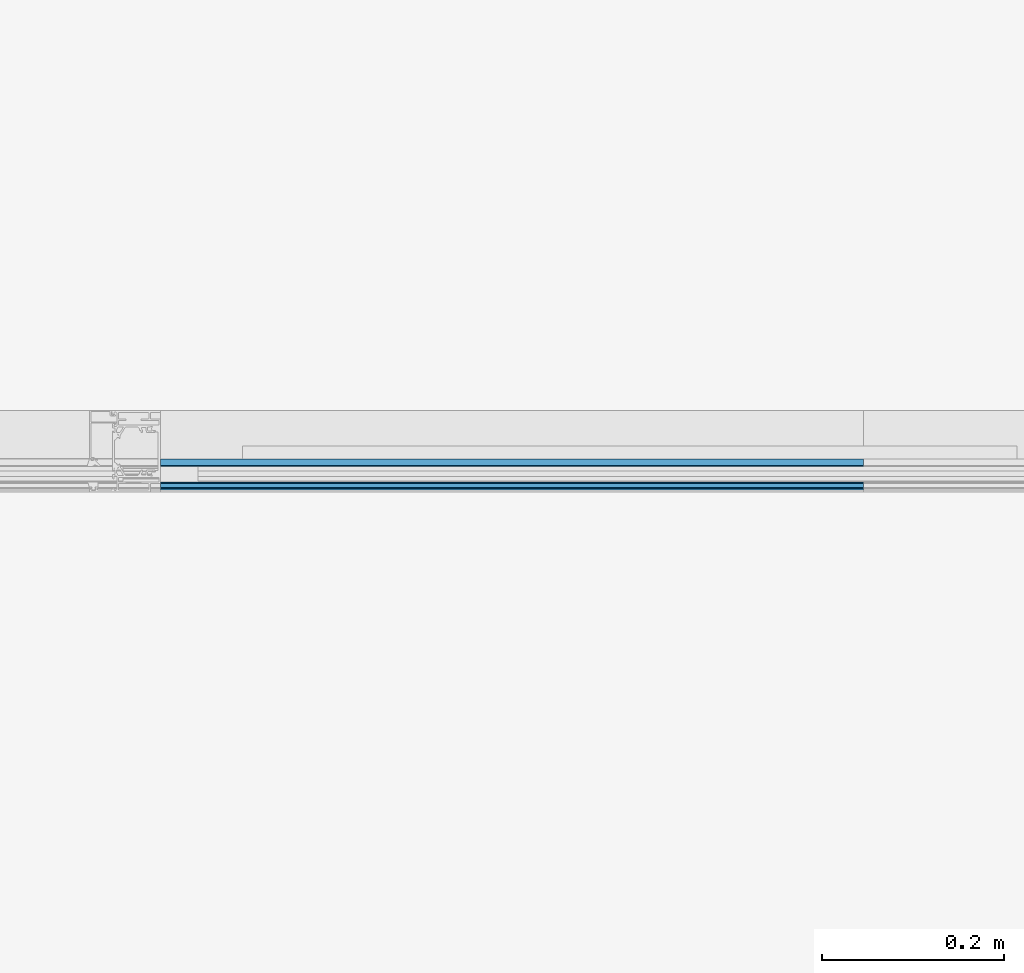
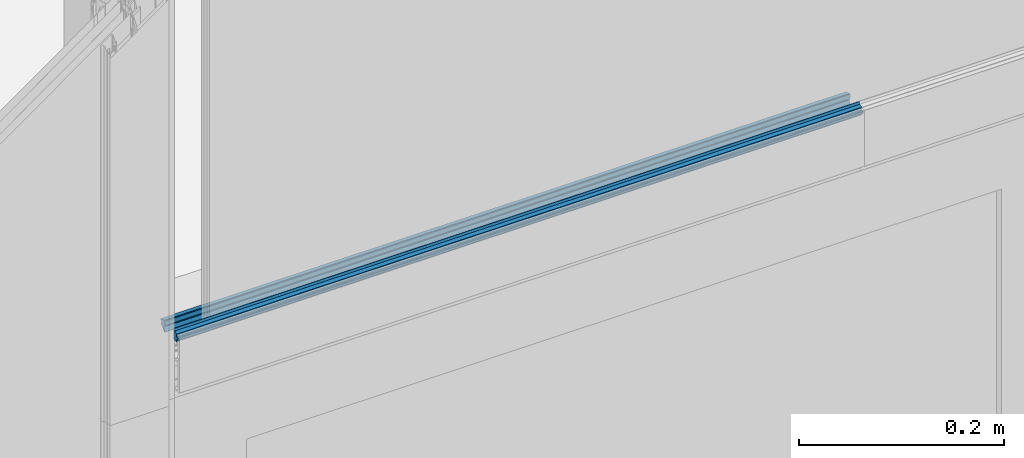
# One storey, part 32 of 69: 1 building element part, 2 elements without a shape of their own.
"""IFC2X3 building model written with IfcOpenShell, lengths in millimetres."""

from ifc_helpers import new_model, entity, si_unit, converted_unit, derived_unit, money_unit, direction, frame, origin_with_axes, place, context, subcontext, project, spatial, faceted_brep, material, type_object, element, aggregate, save


model = new_model("IFC2X3")

# Units and contexts
model_context = context("Model", 3, precision=0.01, world=origin_with_axes(), true_north=direction((0.0, 1.0)))
body_context = subcontext(model_context, "Body", "Model", "MODEL_VIEW")
ifc_project = project(units=[si_unit("LENGTHUNIT", "METRE", prefix="MILLI"), si_unit("AREAUNIT", "SQUARE_METRE"), si_unit("VOLUMEUNIT", "CUBIC_METRE"), converted_unit("PLANEANGLEUNIT", "DEGREE", entity("IfcPlaneAngleMeasure", 0.0174532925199), si_unit("PLANEANGLEUNIT", "RADIAN"), dimensions=[0, 0, 0, 0, 0, 0, 0]), si_unit("SOLIDANGLEUNIT", "STERADIAN"), money_unit("EUR"), converted_unit("TIMEUNIT", "Year", entity("IfcTimeMeasure", 31556926.0), si_unit("TIMEUNIT", "SECOND"), dimensions=[0, 0, 1, 0, 0, 0, 0]), si_unit("MASSUNIT", "GRAM", prefix="KILO"), si_unit("THERMODYNAMICTEMPERATUREUNIT", "DEGREE_CELSIUS"), si_unit("LUMINOUSINTENSITYUNIT", "LUMEN"), si_unit("ENERGYUNIT", "JOULE", prefix="MEGA"), derived_unit("THERMALCONDUCTANCEUNIT", [(si_unit("POWERUNIT", "WATT"), 1), (si_unit("LENGTHUNIT", "METRE"), -1), (si_unit("THERMODYNAMICTEMPERATUREUNIT", "KELVIN"), -1)]), derived_unit("SPECIFICHEATCAPACITYUNIT", [(si_unit("ENERGYUNIT", "JOULE"), 1), (si_unit("MASSUNIT", "GRAM", prefix="KILO"), -1), (si_unit("THERMODYNAMICTEMPERATUREUNIT", "KELVIN"), -1)]), derived_unit("MASSDENSITYUNIT", [(si_unit("MASSUNIT", "GRAM", prefix="KILO"), 1), (si_unit("VOLUMEUNIT", "CUBIC_METRE"), -1)])], contexts=[model_context])

# Site, building, storey
site_placement = place(None, origin_with_axes())
site = spatial("IfcSite", under=ifc_project, at=site_placement, Name="Puškini 31, Narva", CompositionType="ELEMENT")
building_placement = place(site_placement, origin_with_axes())
building = spatial("IfcBuilding", under=site, at=building_placement, Name="Narva Riigigümnaasium", CompositionType="ELEMENT")
storey_placement = place(building_placement, origin_with_axes())
storey = spatial("IfcBuildingStorey", under=building, at=storey_placement, Name="1.korrus 0.00", CompositionType="ELEMENT", Elevation=0.0)

# Curtain wall, member, building element part
curtain_wall_type = type_object("IfcCurtainWallType", Name="Curtain Wall Type", PredefinedType="NOTDEFINED")
curtain_wall_placement = place(storey_placement, frame((18229.9603698, 152620.000001, -0.397158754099), z_axis=(0.0, 0.0, 1.0), x_axis=(1.0, 0.0, 0.0)))
curtain_wall = element("IfcCurtainWall", 1, at=curtain_wall_placement, inside=storey, type_object=curtain_wall_type, Name="G-KLF-01-1")
member_type = type_object("IfcMemberType", Name="82 x 35", PredefinedType="MULLION")
member_placement = place(curtain_wall_placement, frame((-167.593132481, 0.0, 2400.00003439), z_axis=(-1.0, 0.0, 0.0), x_axis=(0.0, 0.0, 1.0)))
member = element("IfcMember", 2, at=member_placement, type_object=member_type, Name="G-SKLF-01-raam", ObjectType="MULLION")
aggregate(curtain_wall, [member])
ifc_material = material(Name="Membraan - Veekindel")
building_element_part_placement = place(member_placement, origin_with_axes())
building_element_part = element("IfcBuildingElementPart", 3, at=building_element_part_placement, material=ifc_material, Name="Membraan - Veekindel", context=body_context, shape_type="Brep", body=[
    faceted_brep([(74.9898926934, -16.6230552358, 0.0), (74.9898926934, -16.6230552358, 773.537000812), (72.7204882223, -15.0100099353, 773.537000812), (72.7204882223, -15.0100099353, 0.0), (77.1927259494, -16.806401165, 0.0), (77.1927259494, -16.806401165, 773.537000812), (79.5038972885, -16.8013439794, 773.537000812), (80.1029794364, -16.6395947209, 773.537000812), (80.5411647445, -16.2002134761, 773.537000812), (80.7012805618, -15.6006926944, 773.537000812), (80.5405112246, -15.001346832, 773.537000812), (78.7418652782, -10.0036443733, 773.537000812), (78.4882789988, -8.54540440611, 773.537000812), (78.4207620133, -8.40475732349, 773.537000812), (78.2917480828, -8.3170330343, 773.537000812), (78.1361285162, -8.30595622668, 773.537000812), (76.7361285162, -8.57808865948, 773.537000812), (76.601588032, -8.64188392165, 773.537000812), (76.5142922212, -8.76250903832, 773.537000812), (76.4957458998, -8.91024871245, 773.537000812), (76.6099827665, -9.81277248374, 773.537000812), (76.5838261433, -9.97813443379, 773.537000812), (76.4731258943, -10.1037298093, 773.537000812), (76.3123574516, -10.1504443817, 773.537000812), (74.2580290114, -10.1504443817, 773.537000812), (74.0859560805, -10.096189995, 773.537000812), (73.9761212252, -9.95305042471, 773.537000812), (73.5556584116, -8.79783833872, 773.537000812), (73.4722984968, -8.67558063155, 773.537000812), (73.3406152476, -8.60808734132, 773.537000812), (73.192689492, -8.61180126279, 773.537000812), (73.0645590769, -8.68581760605, 773.537000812), (66.8142070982, -15.4145273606, 773.537000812), (66.5501763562, -15.7474287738, 773.537000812), (66.5093924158, -16.1703616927, 773.537000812), (66.7049453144, -16.5475813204, 773.537000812), (67.0740702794, -16.7580150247, 773.537000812), (67.4982927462, -16.7341218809, 773.537000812), (71.7536994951, -15.2121692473, 773.537000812), (72.0437237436, -15.0307647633, 773.537000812), (72.2558878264, -14.9074571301, 773.537000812), (72.5011668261, -14.8999349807, 773.537000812), (72.5011668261, -14.8999349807, 0.0), (72.2558878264, -14.9074571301, 0.0), (72.0437237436, -15.0307647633, 0.0), (71.7536994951, -15.2121692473, 0.0), (67.4982927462, -16.7341218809, 0.0), (67.0740702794, -16.7580150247, 0.0), (66.7049453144, -16.5475813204, 0.0), (66.5093924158, -16.1703616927, 0.0), (66.5501763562, -15.7474287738, 0.0), (66.8142070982, -15.4145273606, 0.0), (73.0645590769, -8.68581760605, 0.0), (73.192689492, -8.61180126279, 0.0), (73.3406152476, -8.60808734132, 0.0), (73.4722984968, -8.67558063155, 0.0), (73.5556584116, -8.79783833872, 0.0), (73.9761212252, -9.95305042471, 0.0), (74.0859560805, -10.096189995, 0.0), (74.2580290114, -10.1504443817, 0.0), (76.3123574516, -10.1504443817, 0.0), (76.4731258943, -10.1037298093, 0.0), (76.5838261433, -9.97813443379, 0.0), (76.6099827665, -9.81277248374, 0.0), (76.4957458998, -8.91024871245, 0.0), (76.5142922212, -8.76250903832, 0.0), (76.601588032, -8.64188392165, 0.0), (76.7361285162, -8.57808865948, 0.0), (78.1361285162, -8.30595622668, 0.0), (78.2917480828, -8.3170330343, 0.0), (78.4207620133, -8.40475732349, 0.0), (78.4882789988, -8.54540440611, 0.0), (78.7418652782, -10.0036443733, 0.0), (80.5405112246, -15.001346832, 0.0), (80.7012805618, -15.6006926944, 0.0), (80.5411647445, -16.2002134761, 0.0), (80.1029794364, -16.6395947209, 0.0), (79.5038972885, -16.8013439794, 0.0)], [[[0, 1, 2, 3]], [[4, 5, 1, 0]], [[1, 5, 6, 7, 8, 9, 10, 11, 12, 13, 14, 15, 16, 17, 18, 19, 20, 21, 22, 23, 24, 25, 26, 27, 28, 29, 30, 31, 32, 33, 34, 35, 36, 37, 38, 39, 40, 41, 2]], [[3, 2, 41, 42]], [[0, 3, 42, 43, 44, 45, 46, 47, 48, 49, 50, 51, 52, 53, 54, 55, 56, 57, 58, 59, 60, 61, 62, 63, 64, 65, 66, 67, 68, 69, 70, 71, 72, 73, 74, 75, 76, 77, 4]], [[77, 6, 5, 4]], [[76, 7, 6, 77]], [[75, 8, 7, 76]], [[74, 9, 8, 75]], [[73, 10, 9, 74]], [[72, 11, 10, 73]], [[71, 12, 11, 72]], [[70, 13, 12, 71]], [[69, 14, 13, 70]], [[68, 15, 14, 69]], [[67, 16, 15, 68]], [[66, 17, 16, 67]], [[65, 18, 17, 66]], [[64, 19, 18, 65]], [[63, 20, 19, 64]], [[62, 21, 20, 63]], [[61, 22, 21, 62]], [[60, 23, 22, 61]], [[59, 24, 23, 60]], [[58, 25, 24, 59]], [[57, 26, 25, 58]], [[56, 27, 26, 57]], [[55, 28, 27, 56]], [[54, 29, 28, 55]], [[53, 30, 29, 54]], [[52, 31, 30, 53]], [[51, 32, 31, 52]], [[50, 33, 32, 51]], [[49, 34, 33, 50]], [[48, 35, 34, 49]], [[47, 36, 35, 48]], [[46, 37, 36, 47]], [[45, 38, 37, 46]], [[44, 39, 38, 45]], [[43, 40, 39, 44]], [[42, 41, 40, 43]]]),
    faceted_brep([(72.8904310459, -42.4618935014, 0.0), (72.8904310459, -42.4618935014, 773.537000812), (71.6876987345, -41.3119145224, 773.537000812), (71.6876987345, -41.3119145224, 0.0), (73.0818844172, -42.5, 0.0), (73.0818844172, -42.5, 773.537000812), (74.717932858, -42.5, 773.537000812), (74.9093558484, -42.461906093, 773.537000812), (75.0716106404, -42.353428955, 773.537000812), (76.1122970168, -41.3120098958, 773.537000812), (76.1942964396, -41.1583915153, 773.537000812), (76.1771585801, -40.9851032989, 773.537000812), (76.0666568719, -40.8505228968, 773.537000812), (75.9000173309, -40.799988, 773.537000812), (75.800021, -40.799988, 773.537000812), (75.500021, -40.499988, 773.537000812), (75.500021, -39.200012, 773.537000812), (76.5000210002, -39.200012, 773.537000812), (78.5000022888, -39.2000007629, 773.537000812), (78.5000022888, -40.0000359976, 773.537000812), (78.7000161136, -39.9464425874, 773.537000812), (78.8464370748, -39.8000230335, 773.537000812), (78.9000324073, -39.6000097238, 773.537000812), (79.1693613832, -36.5266395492, 773.537000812), (79.6755028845, -35.3629012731, 773.537000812), (80.7800222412, -34.7379988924, 773.537000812), (82.041102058, -34.4928127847, 773.537000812), (82.2412066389, -34.3909158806, 773.537000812), (82.3536959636, -34.1965683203, 773.537000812), (82.3423779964, -33.9722990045, 773.537000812), (82.2108941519, -33.7902637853, 773.537000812), (69.647137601, -33.7902637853, 773.537000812), (68.8997554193, -34.9006000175, 773.537000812), (68.9000321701, -38.9000291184, 773.537000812), (68.9402207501, -39.0500149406, 773.537000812), (69.0500179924, -39.159812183, 773.537000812), (69.2000038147, -39.2000007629, 773.537000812), (71.30004, -39.2000007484, 773.537000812), (72.30004, -39.200012, 773.537000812), (72.30004, -40.499988, 773.537000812), (72.2598476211, -40.649988, 773.537000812), (72.15004, -40.7597956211, 773.537000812), (72.00004, -40.799988, 773.537000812), (71.900046, -40.799988, 773.537000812), (71.7334350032, -40.8505059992, 773.537000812), (71.6229356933, -40.9850466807, 773.537000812), (71.6057623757, -41.1582990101, 773.537000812), (71.6057623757, -41.1582990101, 0.0), (71.6229356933, -40.9850466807, 0.0), (71.7334350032, -40.8505059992, 0.0), (71.900046, -40.799988, 0.0), (72.00004, -40.799988, 0.0), (72.15004, -40.7597956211, 0.0), (72.2598476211, -40.649988, 0.0), (72.30004, -40.499988, 0.0), (72.30004, -39.200012, 0.0), (71.30004, -39.2000007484, 0.0), (69.2000038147, -39.2000007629, 0.0), (69.0500179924, -39.159812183, 0.0), (68.9402207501, -39.0500149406, 0.0), (68.9000321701, -38.9000291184, 0.0), (68.8997554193, -34.9006000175, 0.0), (69.647137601, -33.7902637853, 0.0), (82.2108941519, -33.7902637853, 0.0), (82.3423779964, -33.9722990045, 0.0), (82.3536959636, -34.1965683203, 0.0), (82.2412066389, -34.3909158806, 0.0), (82.041102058, -34.4928127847, 0.0), (80.7800222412, -34.7379988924, 0.0), (79.6755028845, -35.3629012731, 0.0), (79.1693613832, -36.5266395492, 0.0), (78.9000324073, -39.6000097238, 0.0), (78.8464370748, -39.8000230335, 0.0), (78.7000161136, -39.9464425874, 0.0), (78.5000022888, -40.0000359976, 0.0), (78.5000022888, -39.2000007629, 0.0), (76.5000210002, -39.200012, 0.0), (75.500021, -39.200012, 0.0), (75.500021, -40.499988, 0.0), (75.800021, -40.799988, 0.0), (75.9000173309, -40.799988, 0.0), (76.0666568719, -40.8505228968, 0.0), (76.1771585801, -40.9851032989, 0.0), (76.1942964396, -41.1583915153, 0.0), (76.1122970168, -41.3120098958, 0.0), (75.0716106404, -42.353428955, 0.0), (74.9093558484, -42.461906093, 0.0), (74.717932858, -42.5, 0.0)], [[[0, 1, 2, 3]], [[4, 5, 1, 0]], [[1, 5, 6, 7, 8, 9, 10, 11, 12, 13, 14, 15, 16, 17, 18, 19, 20, 21, 22, 23, 24, 25, 26, 27, 28, 29, 30, 31, 32, 33, 34, 35, 36, 37, 38, 39, 40, 41, 42, 43, 44, 45, 46, 2]], [[3, 2, 46, 47]], [[0, 3, 47, 48, 49, 50, 51, 52, 53, 54, 55, 56, 57, 58, 59, 60, 61, 62, 63, 64, 65, 66, 67, 68, 69, 70, 71, 72, 73, 74, 75, 76, 77, 78, 79, 80, 81, 82, 83, 84, 85, 86, 87, 4]], [[87, 6, 5, 4]], [[86, 7, 6, 87]], [[85, 8, 7, 86]], [[84, 9, 8, 85]], [[83, 10, 9, 84]], [[82, 11, 10, 83]], [[81, 12, 11, 82]], [[80, 13, 12, 81]], [[79, 14, 13, 80]], [[78, 15, 14, 79]], [[77, 16, 15, 78]], [[76, 17, 16, 77]], [[75, 18, 17, 76]], [[74, 19, 18, 75]], [[73, 20, 19, 74]], [[72, 21, 20, 73]], [[71, 22, 21, 72]], [[70, 23, 22, 71]], [[69, 24, 23, 70]], [[68, 25, 24, 69]], [[67, 26, 25, 68]], [[66, 27, 26, 67]], [[65, 28, 27, 66]], [[64, 29, 28, 65]], [[63, 30, 29, 64]], [[62, 31, 30, 63]], [[61, 32, 31, 62]], [[60, 33, 32, 61]], [[59, 34, 33, 60]], [[58, 35, 34, 59]], [[57, 36, 35, 58]], [[56, 37, 36, 57]], [[55, 38, 37, 56]], [[54, 39, 38, 55]], [[53, 40, 39, 54]], [[52, 41, 40, 53]], [[51, 42, 41, 52]], [[50, 43, 42, 51]], [[49, 44, 43, 50]], [[48, 45, 44, 49]], [[47, 46, 45, 48]]]),
])
aggregate(member, [building_element_part])

save(model, "model.ifc")
